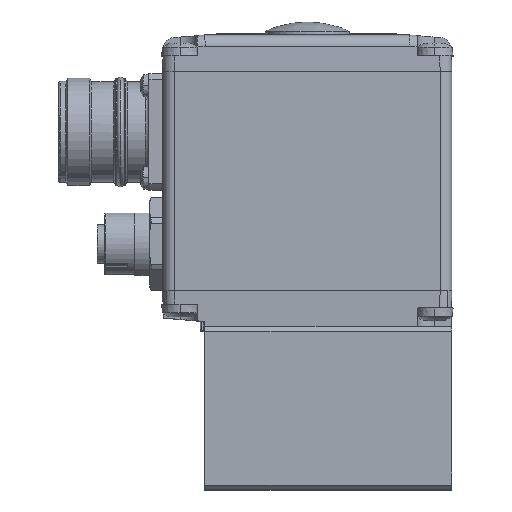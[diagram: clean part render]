
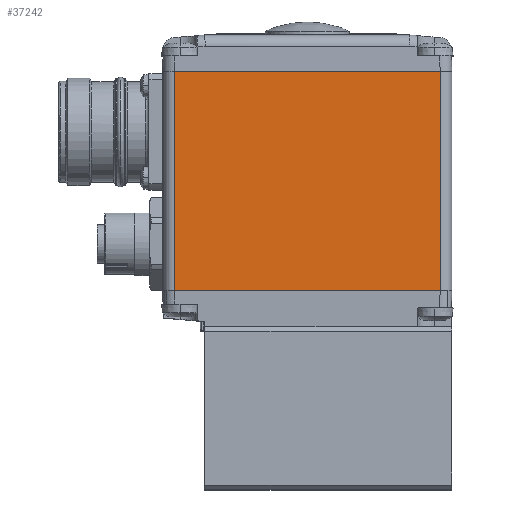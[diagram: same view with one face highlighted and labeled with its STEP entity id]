
A CAD part, top view. The second image highlights one B-rep face of the part: STEP entity #37242.
In plain terms, the highlighted planar face has unit normal (0, 0, 1).
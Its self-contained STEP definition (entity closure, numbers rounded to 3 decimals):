
#37242 = ADVANCED_FACE ( 'NONE', ( #103548 ), #125673, .F. ) ;
#40950 = LINE ( 'NONE', #119365, #40954 ) ;
#40954 = VECTOR ( 'NONE', #119362, 1000. ) ;
#40964 = LINE ( 'NONE', #119388, #40967 ) ;
#40967 = VECTOR ( 'NONE', #119395, 1000. ) ;
#40982 = LINE ( 'NONE', #119485, #40984 ) ;
#40984 = VECTOR ( 'NONE', #119503, 1000. ) ;
#41016 = LINE ( 'NONE', #119639, #41024 ) ;
#41024 = VECTOR ( 'NONE', #119670, 1000. ) ;
#56678 = CARTESIAN_POINT ( 'NONE',  ( 28.5, 0., 17.65 ) ) ;
#62741 = ORIENTED_EDGE ( 'NONE', *, *, #200672, .T. ) ;
#62747 = ORIENTED_EDGE ( 'NONE', *, *, #200713, .T. ) ;
#63212 = ORIENTED_EDGE ( 'NONE', *, *, #200689, .F. ) ;
#89043 = CARTESIAN_POINT ( 'NONE',  ( -28.5, 0., 17.65 ) ) ;
#93499 = ORIENTED_EDGE ( 'NONE', *, *, #200677, .F. ) ;
#97733 = AXIS2_PLACEMENT_3D ( 'NONE', #125608, #125606, #125603 ) ;
#103548 = FACE_OUTER_BOUND ( 'NONE', #132387, .T. ) ;
#119362 = DIRECTION ( 'NONE',  ( 0., -1., 0. ) ) ;
#119365 = CARTESIAN_POINT ( 'NONE',  ( -28.5, 47., 17.65 ) ) ;
#119388 = CARTESIAN_POINT ( 'NONE',  ( 28.5, 47., 17.65 ) ) ;
#119395 = DIRECTION ( 'NONE',  ( 0., -1., 0. ) ) ;
#119485 = CARTESIAN_POINT ( 'NONE',  ( -28.5, 0., 17.65 ) ) ;
#119503 = DIRECTION ( 'NONE',  ( -1., 0., 0. ) ) ;
#119639 = CARTESIAN_POINT ( 'NONE',  ( -28.5, 47., 17.65 ) ) ;
#119670 = DIRECTION ( 'NONE',  ( -1., 0., 0. ) ) ;
#125603 = DIRECTION ( 'NONE',  ( 1., 0., 0. ) ) ;
#125606 = DIRECTION ( 'NONE',  ( 0., 0., -1. ) ) ;
#125608 = CARTESIAN_POINT ( 'NONE',  ( -28.5, 47., 17.65 ) ) ;
#125673 = PLANE ( 'NONE',  #97733 ) ;
#132387 = EDGE_LOOP ( 'NONE', ( #63212, #93499, #62747, #62741 ) ) ;
#173888 = VERTEX_POINT ( 'NONE', #225324 ) ;
#173912 = VERTEX_POINT ( 'NONE', #225342 ) ;
#200672 = EDGE_CURVE ( 'NONE', #173912, #203908, #40950, .T. ) ;
#200677 = EDGE_CURVE ( 'NONE', #173888, #204758, #40964, .T. ) ;
#200689 = EDGE_CURVE ( 'NONE', #204758, #203908, #40982, .T. ) ;
#200713 = EDGE_CURVE ( 'NONE', #173888, #173912, #41016, .T. ) ;
#203908 = VERTEX_POINT ( 'NONE', #89043 ) ;
#204758 = VERTEX_POINT ( 'NONE', #56678 ) ;
#225324 = CARTESIAN_POINT ( 'NONE',  ( 28.5, 47., 17.65 ) ) ;
#225342 = CARTESIAN_POINT ( 'NONE',  ( -28.5, 47., 17.65 ) ) ;
